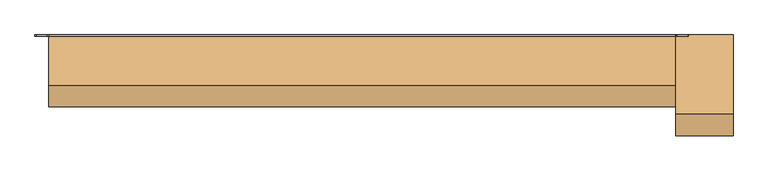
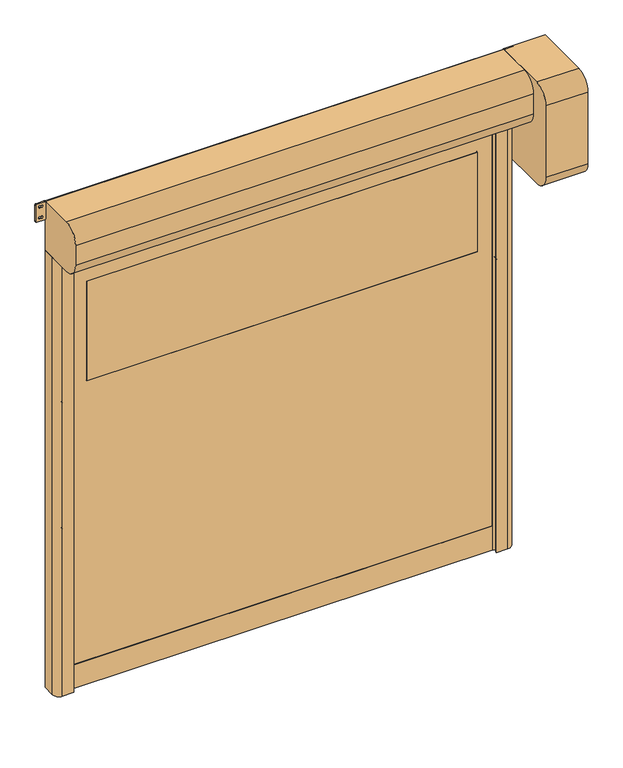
"""IFC4 building model written with IfcOpenShell, lengths in millimetres: door geometry, DO_WPB_Dynamicroll_BMP : Dynamicroll-90."""

from ifc_helpers import new_model, si_unit, point, frame, frame_2d, origin, origin_with_axes, place, context, project, spatial, polyline, circle_curve, trimmed, segment, composite_curve, outline, extrude, source, transform, mapped, element, save


def door_7dfef6e7(model_context):
    return source(origin(), model_context, "Body", "SweptSolid", [
        extrude(outline(composite_curve([segment(trimmed(circle_curve(frame_2d((1416.6666667, 1024.0)), 6.0), [point((1422.6666667, 1024.0))], [point((1410.6666667, 1024.0))], False, "CARTESIAN"), True, "CONTINUOUS"), segment(polyline([(1410.6666667, 1024.0), (1410.6666667, 1042.0)]), True, "CONTINUOUS"), segment(trimmed(circle_curve(frame_2d((1416.6666667, 1042.0)), 6.0), [point((1410.6666667, 1042.0))], [point((1422.6666667, 1042.0))], False, "CARTESIAN"), True, "CONTINUOUS"), segment(polyline([(1422.6666667, 1042.0), (1422.6666667, 1024.0)]), True, "CONTINUOUS")], self_intersect=False)), frame((0.0, -20.0, 0.0), z_axis=(0.0, 1.0, 0.0), x_axis=(0.0, 0.0, 1.0)), (0.0, 0.0, 1.0), 20.0),
        extrude(outline(composite_curve([segment(trimmed(circle_curve(frame_2d((783.3333333, 1024.0)), 6.0), [point((789.3333333, 1024.0))], [point((777.3333333, 1024.0))], False, "CARTESIAN"), True, "CONTINUOUS"), segment(polyline([(777.3333333, 1024.0), (777.3333333, 1042.0)]), True, "CONTINUOUS"), segment(trimmed(circle_curve(frame_2d((783.3333333, 1042.0)), 6.0), [point((777.3333333, 1042.0))], [point((789.3333333, 1042.0))], False, "CARTESIAN"), True, "CONTINUOUS"), segment(polyline([(789.3333333, 1042.0), (789.3333333, 1024.0)]), True, "CONTINUOUS")], self_intersect=False)), frame((0.0, -20.0, 0.0), z_axis=(0.0, 1.0, 0.0), x_axis=(0.0, 0.0, 1.0)), (0.0, 0.0, 1.0), 20.0),
        extrude(outline(composite_curve([segment(trimmed(circle_curve(frame_2d((2050.0, 1024.0)), 6.0), [point((2056.0, 1024.0))], [point((2044.0, 1024.0))], False, "CARTESIAN"), True, "CONTINUOUS"), segment(polyline([(2044.0, 1024.0), (2044.0, 1042.0)]), True, "CONTINUOUS"), segment(trimmed(circle_curve(frame_2d((2050.0, 1042.0)), 6.0), [point((2044.0, 1042.0))], [point((2056.0, 1042.0))], False, "CARTESIAN"), True, "CONTINUOUS"), segment(polyline([(2056.0, 1042.0), (2056.0, 1024.0)]), True, "CONTINUOUS")], self_intersect=False)), frame((0.0, -20.0, 0.0), z_axis=(0.0, 1.0, 0.0), x_axis=(0.0, 0.0, 1.0)), (0.0, 0.0, 1.0), 20.0),
        extrude(outline(composite_curve([segment(trimmed(circle_curve(frame_2d((150.0, 1024.0)), 6.0), [point((156.0, 1024.0))], [point((144.0, 1024.0))], False, "CARTESIAN"), True, "CONTINUOUS"), segment(polyline([(144.0, 1024.0), (144.0, 1042.0)]), True, "CONTINUOUS"), segment(trimmed(circle_curve(frame_2d((150.0, 1042.0)), 6.0), [point((144.0, 1042.0))], [point((156.0, 1042.0))], False, "CARTESIAN"), True, "CONTINUOUS"), segment(polyline([(156.0, 1042.0), (156.0, 1024.0)]), True, "CONTINUOUS")], self_intersect=False)), frame((0.0, -20.0, 0.0), z_axis=(0.0, 1.0, 0.0), x_axis=(0.0, 0.0, 1.0)), (0.0, 0.0, 1.0), 20.0),
        extrude(outline(composite_curve([segment(polyline([(1422.6666667, -1024.0), (1422.6666667, -1042.0)]), True, "CONTINUOUS"), segment(trimmed(circle_curve(frame_2d((1416.6666667, -1042.0)), 6.0), [point((1422.6666667, -1042.0))], [point((1410.6666667, -1042.0))], False, "CARTESIAN"), True, "CONTINUOUS"), segment(polyline([(1410.6666667, -1042.0), (1410.6666667, -1024.0)]), True, "CONTINUOUS"), segment(trimmed(circle_curve(frame_2d((1416.6666667, -1024.0)), 6.0), [point((1410.6666667, -1024.0))], [point((1422.6666667, -1024.0))], False, "CARTESIAN"), True, "CONTINUOUS")], self_intersect=False)), frame((0.0, -20.0, 0.0), z_axis=(0.0, 1.0, 0.0), x_axis=(0.0, 0.0, 1.0)), (0.0, 0.0, 1.0), 20.0),
        extrude(outline(composite_curve([segment(polyline([(789.3333333, -1024.0), (789.3333333, -1042.0)]), True, "CONTINUOUS"), segment(trimmed(circle_curve(frame_2d((783.3333333, -1042.0)), 6.0), [point((789.3333333, -1042.0))], [point((777.3333333, -1042.0))], False, "CARTESIAN"), True, "CONTINUOUS"), segment(polyline([(777.3333333, -1042.0), (777.3333333, -1024.0)]), True, "CONTINUOUS"), segment(trimmed(circle_curve(frame_2d((783.3333333, -1024.0)), 6.0), [point((777.3333333, -1024.0))], [point((789.3333333, -1024.0))], False, "CARTESIAN"), True, "CONTINUOUS")], self_intersect=False)), frame((0.0, -20.0, 0.0), z_axis=(0.0, 1.0, 0.0), x_axis=(0.0, 0.0, 1.0)), (0.0, 0.0, 1.0), 20.0),
        extrude(outline(composite_curve([segment(polyline([(2056.0, -1024.0), (2056.0, -1042.0)]), True, "CONTINUOUS"), segment(trimmed(circle_curve(frame_2d((2050.0, -1042.0)), 6.0), [point((2056.0, -1042.0))], [point((2044.0, -1042.0))], False, "CARTESIAN"), True, "CONTINUOUS"), segment(polyline([(2044.0, -1042.0), (2044.0, -1024.0)]), True, "CONTINUOUS"), segment(trimmed(circle_curve(frame_2d((2050.0, -1024.0)), 6.0), [point((2044.0, -1024.0))], [point((2056.0, -1024.0))], False, "CARTESIAN"), True, "CONTINUOUS")], self_intersect=False)), frame((0.0, -20.0, 0.0), z_axis=(0.0, 1.0, 0.0), x_axis=(0.0, 0.0, 1.0)), (0.0, 0.0, 1.0), 20.0),
        extrude(outline(composite_curve([segment(polyline([(156.0, -1024.0), (156.0, -1042.0)]), True, "CONTINUOUS"), segment(trimmed(circle_curve(frame_2d((150.0, -1042.0)), 6.0), [point((156.0, -1042.0))], [point((144.0, -1042.0))], False, "CARTESIAN"), True, "CONTINUOUS"), segment(polyline([(144.0, -1042.0), (144.0, -1024.0)]), True, "CONTINUOUS"), segment(trimmed(circle_curve(frame_2d((150.0, -1024.0)), 6.0), [point((144.0, -1024.0))], [point((156.0, -1024.0))], False, "CARTESIAN"), True, "CONTINUOUS")], self_intersect=False)), frame((0.0, -20.0, 0.0), z_axis=(0.0, 1.0, 0.0), x_axis=(0.0, 0.0, 1.0)), (0.0, 0.0, 1.0), 20.0),
        extrude(outline(composite_curve([segment(trimmed(circle_curve(frame_2d((1526.0, 929.0)), 1.0), [point((1525.0, 929.0))], [point((1526.0, 930.0))], False, "CARTESIAN"), True, "CONTINUOUS"), segment(polyline([(1526.0, 930.0), (2024.0, 930.0)]), True, "CONTINUOUS"), segment(trimmed(circle_curve(frame_2d((2024.0, 929.0)), 1.0), [point((2024.0, 930.0))], [point((2025.0, 929.0))], False, "CARTESIAN"), True, "CONTINUOUS"), segment(polyline([(2025.0, 929.0), (2025.0, -929.0)]), True, "CONTINUOUS"), segment(trimmed(circle_curve(frame_2d((2024.0, -929.0)), 1.0), [point((2025.0, -929.0))], [point((2024.0, -930.0))], False, "CARTESIAN"), True, "CONTINUOUS"), segment(polyline([(2024.0, -930.0), (1526.0, -930.0)]), True, "CONTINUOUS"), segment(trimmed(circle_curve(frame_2d((1526.0, -929.0)), 1.0), [point((1526.0, -930.0))], [point((1525.0, -929.0))], False, "CARTESIAN"), True, "CONTINUOUS"), segment(polyline([(1525.0, -929.0), (1525.0, 929.0)]), True, "CONTINUOUS")], self_intersect=False)), frame((0.0, -63.5, 0.0), z_axis=(0.0, 1.0, 0.0), x_axis=(0.0, 0.0, 1.0)), (0.0, 0.0, 1.0), 7.0),
        extrude(outline(polyline([(120.0, -1012.0), (120.0, 1012.0), (2325.0, 1012.0), (2325.0, -1012.0), (120.0, -1012.0)]), holes=[composite_curve([segment(trimmed(circle_curve(frame_2d((1526.0, 929.0)), 1.0), [point((1526.0, 930.0))], [point((1525.0, 929.0))], True, "CARTESIAN"), True, "CONTINUOUS"), segment(polyline([(1525.0, 929.0), (1525.0, -929.0)]), True, "CONTINUOUS"), segment(trimmed(circle_curve(frame_2d((1526.0, -929.0)), 1.0), [point((1525.0, -929.0))], [point((1526.0, -930.0))], True, "CARTESIAN"), True, "CONTINUOUS"), segment(polyline([(1526.0, -930.0), (2024.0, -930.0)]), True, "CONTINUOUS"), segment(trimmed(circle_curve(frame_2d((2024.0, -929.0)), 1.0), [point((2024.0, -930.0))], [point((2025.0, -929.0))], True, "CARTESIAN"), True, "CONTINUOUS"), segment(polyline([(2025.0, -929.0), (2025.0, 929.0)]), True, "CONTINUOUS"), segment(trimmed(circle_curve(frame_2d((2024.0, 929.0)), 1.0), [point((2025.0, 929.0))], [point((2024.0, 930.0))], True, "CARTESIAN"), True, "CONTINUOUS"), segment(polyline([(2024.0, 930.0), (1526.0, 930.0)]), True, "CONTINUOUS")], self_intersect=False)]), frame((0.0, -63.5, 0.0), z_axis=(0.0, 1.0, 0.0), x_axis=(0.0, 0.0, 1.0)), (0.0, 0.0, 1.0), 7.0),
        extrude(outline(polyline([(-1012.0, -54.5), (1012.0, -54.5), (1012.0, -65.5), (-1012.0, -65.5), (-1012.0, -54.5)])), origin_with_axes(), (0.0, 0.0, 1.0), 120.0),
        extrude(outline(composite_curve([segment(trimmed(circle_curve(frame_2d((2363.75, 1095.75)), 5.75), [point((2363.75, 1090.0))], [point((2358.0, 1095.75))], False, "CARTESIAN"), True, "CONTINUOUS"), segment(polyline([(2358.0, 1095.75), (2358.0, 1133.25)]), True, "CONTINUOUS"), segment(trimmed(circle_curve(frame_2d((2363.75, 1133.25)), 5.75), [point((2358.0, 1133.25))], [point((2363.75, 1139.0))], False, "CARTESIAN"), True, "CONTINUOUS"), segment(polyline([(2363.75, 1139.0), (2444.25, 1139.0)]), True, "CONTINUOUS"), segment(trimmed(circle_curve(frame_2d((2444.25, 1133.25)), 5.75), [point((2444.25, 1139.0))], [point((2450.0, 1133.25))], False, "CARTESIAN"), True, "CONTINUOUS"), segment(polyline([(2450.0, 1133.25), (2450.0, 1095.75)]), True, "CONTINUOUS"), segment(trimmed(circle_curve(frame_2d((2444.25, 1095.75)), 5.75), [point((2450.0, 1095.75))], [point((2444.25, 1090.0))], False, "CARTESIAN"), True, "CONTINUOUS"), segment(polyline([(2444.25, 1090.0), (2363.75, 1090.0)]), True, "CONTINUOUS")], self_intersect=False), holes=[composite_curve([segment(trimmed(circle_curve(frame_2d((2431.5, 1118.75)), 5.75), [point((2437.25, 1118.75))], [point((2425.75, 1118.75))], True, "CARTESIAN"), True, "CONTINUOUS"), segment(polyline([(2425.75, 1118.75), (2425.75, 1110.25)]), True, "CONTINUOUS"), segment(trimmed(circle_curve(frame_2d((2431.5, 1110.25)), 5.75), [point((2425.75, 1110.25))], [point((2437.25, 1110.25))], True, "CARTESIAN"), True, "CONTINUOUS"), segment(polyline([(2437.25, 1110.25), (2437.25, 1118.75)]), True, "CONTINUOUS")], self_intersect=False), composite_curve([segment(trimmed(circle_curve(frame_2d((2376.5, 1118.75)), 5.75), [point((2382.25, 1118.75))], [point((2370.75, 1118.75))], True, "CARTESIAN"), True, "CONTINUOUS"), segment(polyline([(2370.75, 1118.75), (2370.75, 1110.25)]), True, "CONTINUOUS"), segment(trimmed(circle_curve(frame_2d((2376.5, 1110.25)), 5.75), [point((2370.75, 1110.25))], [point((2382.25, 1110.25))], True, "CARTESIAN"), True, "CONTINUOUS"), segment(polyline([(2382.25, 1110.25), (2382.25, 1118.75)]), True, "CONTINUOUS")], self_intersect=False)]), frame((0.0, -5.0, 0.0), z_axis=(0.0, 1.0, 0.0), x_axis=(0.0, 0.0, 1.0)), (0.0, 0.0, 1.0), 5.0),
        extrude(outline(composite_curve([segment(trimmed(circle_curve(frame_2d((2363.75, -1133.25)), 5.75), [point((2363.75, -1139.0))], [point((2358.0, -1133.25))], False, "CARTESIAN"), True, "CONTINUOUS"), segment(polyline([(2358.0, -1133.25), (2358.0, -1095.75)]), True, "CONTINUOUS"), segment(trimmed(circle_curve(frame_2d((2363.75, -1095.75)), 5.75), [point((2358.0, -1095.75))], [point((2363.75, -1090.0))], False, "CARTESIAN"), True, "CONTINUOUS"), segment(polyline([(2363.75, -1090.0), (2444.25, -1090.0)]), True, "CONTINUOUS"), segment(trimmed(circle_curve(frame_2d((2444.25, -1095.75)), 5.75), [point((2444.25, -1090.0))], [point((2450.0, -1095.75))], False, "CARTESIAN"), True, "CONTINUOUS"), segment(polyline([(2450.0, -1095.75), (2450.0, -1133.25)]), True, "CONTINUOUS"), segment(trimmed(circle_curve(frame_2d((2444.25, -1133.25)), 5.75), [point((2450.0, -1133.25))], [point((2444.25, -1139.0))], False, "CARTESIAN"), True, "CONTINUOUS"), segment(polyline([(2444.25, -1139.0), (2363.75, -1139.0)]), True, "CONTINUOUS")], self_intersect=False), holes=[composite_curve([segment(trimmed(circle_curve(frame_2d((2431.5, -1110.25)), 5.75), [point((2437.25, -1110.25))], [point((2425.75, -1110.25))], True, "CARTESIAN"), True, "CONTINUOUS"), segment(polyline([(2425.75, -1110.25), (2425.75, -1118.75)]), True, "CONTINUOUS"), segment(trimmed(circle_curve(frame_2d((2431.5, -1118.75)), 5.75), [point((2425.75, -1118.75))], [point((2437.25, -1118.75))], True, "CARTESIAN"), True, "CONTINUOUS"), segment(polyline([(2437.25, -1118.75), (2437.25, -1110.25)]), True, "CONTINUOUS")], self_intersect=False), composite_curve([segment(trimmed(circle_curve(frame_2d((2376.5, -1110.25)), 5.75), [point((2382.25, -1110.25))], [point((2370.75, -1110.25))], True, "CARTESIAN"), True, "CONTINUOUS"), segment(polyline([(2370.75, -1110.25), (2370.75, -1118.75)]), True, "CONTINUOUS"), segment(trimmed(circle_curve(frame_2d((2376.5, -1118.75)), 5.75), [point((2370.75, -1118.75))], [point((2382.25, -1118.75))], True, "CARTESIAN"), True, "CONTINUOUS"), segment(polyline([(2382.25, -1118.75), (2382.25, -1110.25)]), True, "CONTINUOUS")], self_intersect=False)]), frame((0.0, -5.0, 0.0), z_axis=(0.0, 1.0, 0.0), x_axis=(0.0, 0.0, 1.0)), (0.0, 0.0, 1.0), 5.0),
        extrude(outline(composite_curve([segment(polyline([(-1090.0, 0.0), (-1015.0, 0.0), (-1015.0, -44.2857143), (-1035.0, -50.0), (-1000.0, -50.0), (-1000.0, -56.5), (-1020.0, -56.5), (-1020.0, -63.5), (-1000.0, -63.5), (-1000.0, -70.0), (-1035.0, -70.0), (-1035.0, -85.0), (-1005.0, -85.0), (-1005.0, -90.0), (-1060.0, -90.0)]), True, "CONTINUOUS"), segment(trimmed(circle_curve(frame_2d((-1060.0, -60.0)), 30.0), [point((-1060.0, -90.0))], [point((-1090.0, -60.0))], False, "CARTESIAN"), True, "CONTINUOUS"), segment(polyline([(-1090.0, -60.0), (-1090.0, 0.0)]), True, "CONTINUOUS")], self_intersect=False)), origin_with_axes(), (0.0, 0.0, 1.0), 2200.0),
        extrude(outline(composite_curve([segment(polyline([(1090.0, 0.0), (1090.0, -60.0)]), True, "CONTINUOUS"), segment(trimmed(circle_curve(frame_2d((1060.0, -60.0)), 30.0), [point((1090.0, -60.0))], [point((1060.0, -90.0))], False, "CARTESIAN"), True, "CONTINUOUS"), segment(polyline([(1060.0, -90.0), (1005.0, -90.0), (1005.0, -85.0), (1035.0, -85.0), (1035.0, -70.0), (1000.0, -70.0), (1000.0, -63.5), (1020.0, -63.5), (1020.0, -56.5), (1000.0, -56.5), (1000.0, -50.0), (1035.0, -50.0), (1015.0, -44.2857143), (1015.0, 0.0), (1090.0, 0.0)]), True, "CONTINUOUS")], self_intersect=False)), origin_with_axes(), (0.0, 0.0, 1.0), 2200.0),
        extrude(outline(composite_curve([segment(polyline([(0.0, 2450.0), (0.0, 1940.0), (-275.0, 1940.0)]), True, "CONTINUOUS"), segment(trimmed(circle_curve(frame_2d((-275.0, 2015.0)), 75.0), [point((-275.0, 1940.0))], [point((-350.0, 2015.0))], False, "CARTESIAN"), True, "CONTINUOUS"), segment(polyline([(-350.0, 2015.0), (-350.0, 2375.0)]), True, "CONTINUOUS"), segment(trimmed(circle_curve(frame_2d((-275.0, 2375.0)), 75.0), [point((-350.0, 2375.0))], [point((-275.0, 2450.0))], False, "CARTESIAN"), True, "CONTINUOUS"), segment(polyline([(-275.0, 2450.0), (0.0, 2450.0)]), True, "CONTINUOUS")], self_intersect=False)), frame((1090.0, 0.0, 0.0), z_axis=(1.0, 0.0, 0.0), x_axis=(0.0, 1.0, 0.0)), (0.0, 0.0, 1.0), 200.0),
        extrude(outline(composite_curve([segment(trimmed(circle_curve(frame_2d((-5.0, 2205.0)), 5.0), [point((0.0, 2205.0))], [point((-5.0, 2200.0))], False, "CARTESIAN"), True, "CONTINUOUS"), segment(polyline([(-5.0, 2200.0), (-175.0, 2200.0)]), True, "CONTINUOUS"), segment(trimmed(circle_curve(frame_2d((-175.0, 2275.0)), 75.0), [point((-175.0, 2200.0))], [point((-250.0, 2275.0))], False, "CARTESIAN"), True, "CONTINUOUS"), segment(polyline([(-250.0, 2275.0), (-250.0, 2375.0)]), True, "CONTINUOUS"), segment(trimmed(circle_curve(frame_2d((-175.0, 2375.0)), 75.0), [point((-250.0, 2375.0))], [point((-175.0, 2450.0))], False, "CARTESIAN"), True, "CONTINUOUS"), segment(polyline([(-175.0, 2450.0), (-5.0, 2450.0)]), True, "CONTINUOUS"), segment(trimmed(circle_curve(frame_2d((-5.0, 2445.0)), 5.0), [point((-5.0, 2450.0))], [point((0.0, 2445.0))], False, "CARTESIAN"), True, "CONTINUOUS"), segment(polyline([(0.0, 2445.0), (0.0, 2205.0)]), True, "CONTINUOUS")], self_intersect=False)), frame((-1090.0, 0.0, 0.0), z_axis=(1.0, 0.0, 0.0), x_axis=(0.0, 1.0, 0.0)), (0.0, 0.0, 1.0), 2180.0),
    ])


if __name__ == "__main__":
    model = new_model("IFC4")
    model_context = context("Model", 3, world=origin())
    ifc_project = project(units=[si_unit("LENGTHUNIT", "METRE", prefix="MILLI")], contexts=[model_context])
    site = spatial("IfcSite", under=ifc_project)
    building = spatial("IfcBuilding", under=site)
    placement = place(None, origin())
    door_shape = door_7dfef6e7(model_context)
    element("IfcDoor", 1, ObjectType="DO_WPB_Dynamicroll_BMP : Dynamicroll-90", at=placement, inside=building, context=model_context, shape_type="MappedRepresentation", body=[
        mapped(door_shape, transform((0.0, 0.0, 0.0), x_axis=(1.0, 0.0, 0.0), y_axis=(0.0, 1.0, 0.0), z_axis=(0.0, 0.0, 1.0))),
    ])
    save(model, "model.ifc")
